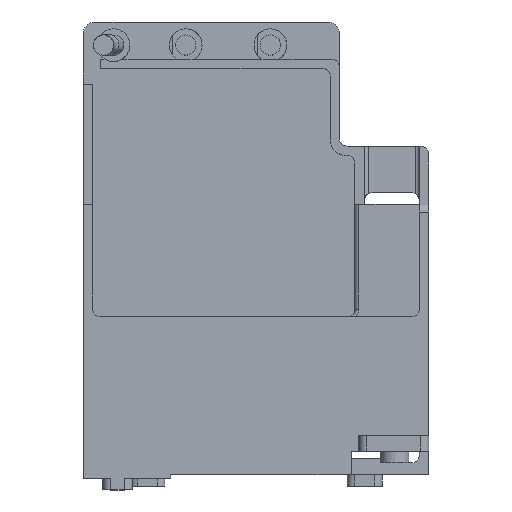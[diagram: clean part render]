
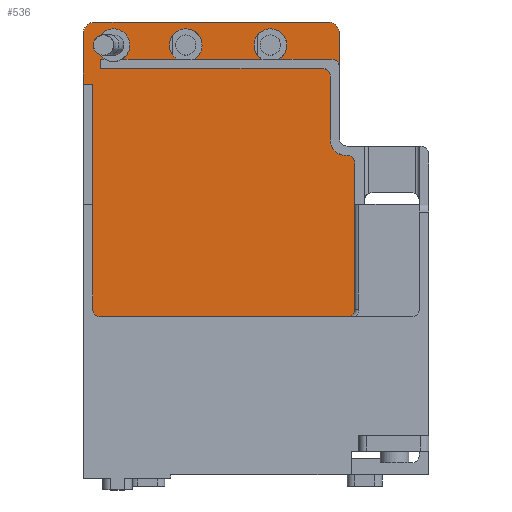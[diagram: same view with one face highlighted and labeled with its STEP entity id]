
A CAD part, top view. The second image highlights one B-rep face of the part: STEP entity #536.
In plain terms, the highlighted planar face has unit normal (0, 0, 1).
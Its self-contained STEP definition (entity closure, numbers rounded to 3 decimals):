
#280=FACE_OUTER_BOUND('',#937,.T.);
#536=ADVANCED_FACE('',(#280),#723,.T.);
#723=PLANE('',#4327);
#937=EDGE_LOOP('',(#2391,#2392,#2393,#2394,#2395,#2396,#2397,#2398,#2399,
#2400,#2401,#2402,#2403,#2404,#2405,#2406,#2407,#2408,#2409,#2410,#2411,
#2412,#2413,#2414,#2415,#2416));
#1229=LINE('',#6387,#1662);
#1233=LINE('',#6398,#1666);
#1239=LINE('',#6414,#1672);
#1243=LINE('',#6426,#1676);
#1247=LINE('',#6438,#1680);
#1283=LINE('',#6519,#1716);
#1334=LINE('',#6635,#1767);
#1337=LINE('',#6641,#1770);
#1338=LINE('',#6644,#1771);
#1339=LINE('',#6645,#1772);
#1340=LINE('',#6648,#1773);
#1341=LINE('',#6651,#1774);
#1342=LINE('',#6653,#1775);
#1343=LINE('',#6657,#1776);
#1344=LINE('',#6660,#1777);
#1662=VECTOR('',#4848,1.);
#1666=VECTOR('',#4858,1.);
#1672=VECTOR('',#4872,1.);
#1676=VECTOR('',#4884,1.);
#1680=VECTOR('',#4896,1.);
#1716=VECTOR('',#4954,1.);
#1767=VECTOR('',#5047,1.);
#1770=VECTOR('',#5052,1.);
#1771=VECTOR('',#5057,1.);
#1772=VECTOR('',#5058,1.);
#1773=VECTOR('',#5061,1.);
#1774=VECTOR('',#5064,1.);
#1775=VECTOR('',#5065,1.);
#1776=VECTOR('',#5068,1.);
#1777=VECTOR('',#5071,1.);
#2391=ORIENTED_EDGE('',*,*,#3843,.F.);
#2392=ORIENTED_EDGE('',*,*,#3842,.T.);
#2393=ORIENTED_EDGE('',*,*,#3826,.F.);
#2394=ORIENTED_EDGE('',*,*,#3844,.T.);
#2395=ORIENTED_EDGE('',*,*,#3813,.F.);
#2396=ORIENTED_EDGE('',*,*,#3845,.T.);
#2397=ORIENTED_EDGE('',*,*,#3739,.T.);
#2398=ORIENTED_EDGE('',*,*,#3712,.T.);
#2399=ORIENTED_EDGE('',*,*,#3846,.T.);
#2400=ORIENTED_EDGE('',*,*,#3847,.T.);
#2401=ORIENTED_EDGE('',*,*,#3848,.T.);
#2402=ORIENTED_EDGE('',*,*,#3778,.T.);
#2403=ORIENTED_EDGE('',*,*,#3849,.T.);
#2404=ORIENTED_EDGE('',*,*,#3850,.T.);
#2405=ORIENTED_EDGE('',*,*,#3851,.T.);
#2406=ORIENTED_EDGE('',*,*,#3852,.T.);
#2407=ORIENTED_EDGE('',*,*,#3853,.T.);
#2408=ORIENTED_EDGE('',*,*,#3717,.T.);
#2409=ORIENTED_EDGE('',*,*,#3722,.T.);
#2410=ORIENTED_EDGE('',*,*,#3725,.T.);
#2411=ORIENTED_EDGE('',*,*,#3728,.T.);
#2412=ORIENTED_EDGE('',*,*,#3731,.T.);
#2413=ORIENTED_EDGE('',*,*,#3734,.T.);
#2414=ORIENTED_EDGE('',*,*,#3737,.T.);
#2415=ORIENTED_EDGE('',*,*,#3854,.T.);
#2416=ORIENTED_EDGE('',*,*,#3839,.T.);
#3299=VERTEX_POINT('',#6380);
#3302=VERTEX_POINT('',#6386);
#3306=VERTEX_POINT('',#6397);
#3307=VERTEX_POINT('',#6399);
#3310=VERTEX_POINT('',#6407);
#3312=VERTEX_POINT('',#6413);
#3314=VERTEX_POINT('',#6419);
#3316=VERTEX_POINT('',#6425);
#3318=VERTEX_POINT('',#6431);
#3320=VERTEX_POINT('',#6437);
#3322=VERTEX_POINT('',#6443);
#3354=VERTEX_POINT('',#6518);
#3355=VERTEX_POINT('',#6520);
#3378=VERTEX_POINT('',#6583);
#3379=VERTEX_POINT('',#6585);
#3389=VERTEX_POINT('',#6609);
#3390=VERTEX_POINT('',#6611);
#3395=VERTEX_POINT('',#6629);
#3398=VERTEX_POINT('',#6634);
#3400=VERTEX_POINT('',#6639);
#3401=VERTEX_POINT('',#6647);
#3402=VERTEX_POINT('',#6649);
#3403=VERTEX_POINT('',#6652);
#3404=VERTEX_POINT('',#6654);
#3405=VERTEX_POINT('',#6656);
#3406=VERTEX_POINT('',#6658);
#3712=EDGE_CURVE('',#3299,#3302,#1229,.T.);
#3717=EDGE_CURVE('',#3307,#3306,#1233,.T.);
#3722=EDGE_CURVE('',#3306,#3310,#4122,.T.);
#3725=EDGE_CURVE('',#3310,#3312,#1239,.T.);
#3728=EDGE_CURVE('',#3312,#3314,#4124,.T.);
#3731=EDGE_CURVE('',#3314,#3316,#1243,.T.);
#3734=EDGE_CURVE('',#3316,#3318,#4126,.T.);
#3737=EDGE_CURVE('',#3318,#3320,#1247,.T.);
#3739=EDGE_CURVE('',#3322,#3299,#4128,.T.);
#3778=EDGE_CURVE('',#3355,#3354,#1283,.T.);
#3813=EDGE_CURVE('',#3378,#3379,#4135,.T.);
#3826=EDGE_CURVE('',#3389,#3390,#4140,.T.);
#3839=EDGE_CURVE('',#3395,#3398,#1334,.T.);
#3842=EDGE_CURVE('',#3400,#3390,#1337,.T.);
#3843=EDGE_CURVE('',#3400,#3398,#4142,.T.);
#3844=EDGE_CURVE('',#3389,#3379,#1338,.T.);
#3845=EDGE_CURVE('',#3378,#3322,#1339,.T.);
#3846=EDGE_CURVE('',#3302,#3401,#4143,.T.);
#3847=EDGE_CURVE('',#3401,#3402,#1340,.T.);
#3848=EDGE_CURVE('',#3402,#3355,#4144,.T.);
#3849=EDGE_CURVE('',#3354,#3403,#1341,.T.);
#3850=EDGE_CURVE('',#3403,#3404,#1342,.T.);
#3851=EDGE_CURVE('',#3404,#3405,#4145,.T.);
#3852=EDGE_CURVE('',#3405,#3406,#1343,.T.);
#3853=EDGE_CURVE('',#3406,#3307,#4146,.T.);
#3854=EDGE_CURVE('',#3320,#3395,#1344,.T.);
#4122=CIRCLE('',#4278,1.);
#4124=CIRCLE('',#4282,2.);
#4126=CIRCLE('',#4286,1.);
#4128=CIRCLE('',#4290,1.);
#4135=CIRCLE('',#4308,2.1);
#4140=CIRCLE('',#4315,2.1);
#4142=CIRCLE('',#4322,2.1);
#4143=CIRCLE('',#4323,1.5);
#4144=CIRCLE('',#4324,1.5);
#4145=CIRCLE('',#4325,1.);
#4146=CIRCLE('',#4326,1.);
#4278=AXIS2_PLACEMENT_3D('',#6408,#4866,#4867);
#4282=AXIS2_PLACEMENT_3D('',#6420,#4878,#4879);
#4286=AXIS2_PLACEMENT_3D('',#6432,#4890,#4891);
#4290=AXIS2_PLACEMENT_3D('',#6442,#4901,#4902);
#4308=AXIS2_PLACEMENT_3D('',#6584,#5004,#5005);
#4315=AXIS2_PLACEMENT_3D('',#6610,#5026,#5027);
#4322=AXIS2_PLACEMENT_3D('',#6643,#5055,#5056);
#4323=AXIS2_PLACEMENT_3D('',#6646,#5059,#5060);
#4324=AXIS2_PLACEMENT_3D('',#6650,#5062,#5063);
#4325=AXIS2_PLACEMENT_3D('',#6655,#5066,#5067);
#4326=AXIS2_PLACEMENT_3D('',#6659,#5069,#5070);
#4327=AXIS2_PLACEMENT_3D('',#6661,#5072,#5073);
#4848=DIRECTION('',(0.,1.,0.));
#4858=DIRECTION('',(0.,1.,0.));
#4866=DIRECTION('',(0.,0.,1.));
#4867=DIRECTION('',(1.,0.,0.));
#4872=DIRECTION('',(-1.,0.,0.));
#4878=DIRECTION('',(0.,0.,-1.));
#4879=DIRECTION('',(1.,0.,0.));
#4884=DIRECTION('',(0.,1.,0.));
#4890=DIRECTION('',(0.,0.,1.));
#4891=DIRECTION('',(1.,0.,0.));
#4896=DIRECTION('',(-1.,0.,0.));
#4901=DIRECTION('',(0.,0.,-1.));
#4902=DIRECTION('',(1.,0.,0.));
#4954=DIRECTION('',(0.,-1.,0.));
#5004=DIRECTION('',(0.,0.,1.));
#5005=DIRECTION('',(1.,0.,0.));
#5026=DIRECTION('',(0.,0.,1.));
#5027=DIRECTION('',(1.,0.,0.));
#5047=DIRECTION('',(1.,0.,0.));
#5052=DIRECTION('',(1.,0.,0.));
#5055=DIRECTION('',(0.,0.,1.));
#5056=DIRECTION('',(1.,0.,0.));
#5057=DIRECTION('',(1.,0.,0.));
#5058=DIRECTION('',(1.,0.,0.));
#5059=DIRECTION('',(0.,0.,1.));
#5060=DIRECTION('',(1.,0.,0.));
#5061=DIRECTION('',(-1.,0.,0.));
#5062=DIRECTION('',(0.,0.,1.));
#5063=DIRECTION('',(1.,0.,0.));
#5064=DIRECTION('',(1.,0.,0.));
#5065=DIRECTION('',(0.,-1.,0.));
#5066=DIRECTION('',(0.,0.,1.));
#5067=DIRECTION('',(1.,0.,0.));
#5068=DIRECTION('',(1.,0.,0.));
#5069=DIRECTION('',(0.,0.,1.));
#5070=DIRECTION('',(1.,0.,0.));
#5071=DIRECTION('',(0.,1.,0.));
#5072=DIRECTION('',(0.,0.,1.));
#5073=DIRECTION('',(1.,0.,0.));
#6380=CARTESIAN_POINT('',(149.112,96.091,-7.3));
#6386=CARTESIAN_POINT('',(149.112,100.391,-7.3));
#6387=CARTESIAN_POINT('',(149.112,96.091,-7.3));
#6397=CARTESIAN_POINT('',(151.112,83.691,-7.3));
#6398=CARTESIAN_POINT('',(151.112,64.891,-7.3));
#6399=CARTESIAN_POINT('',(151.112,64.891,-7.3));
#6407=CARTESIAN_POINT('',(150.112,84.691,-7.3));
#6408=CARTESIAN_POINT('',(150.112,83.691,-7.3));
#6413=CARTESIAN_POINT('',(149.912,84.691,-7.3));
#6414=CARTESIAN_POINT('',(150.112,84.691,-7.3));
#6419=CARTESIAN_POINT('',(147.912,86.691,-7.3));
#6420=CARTESIAN_POINT('',(149.912,86.691,-7.3));
#6425=CARTESIAN_POINT('',(147.912,94.891,-7.3));
#6426=CARTESIAN_POINT('',(147.912,86.691,-7.3));
#6431=CARTESIAN_POINT('',(146.912,95.891,-7.3));
#6432=CARTESIAN_POINT('',(146.912,94.891,-7.3));
#6437=CARTESIAN_POINT('',(118.312,95.891,-7.3));
#6438=CARTESIAN_POINT('',(146.912,95.891,-7.3));
#6442=CARTESIAN_POINT('',(148.112,96.091,-7.3));
#6443=CARTESIAN_POINT('',(148.112,97.091,-7.3));
#6518=CARTESIAN_POINT('',(116.112,93.891,-7.3));
#6519=CARTESIAN_POINT('',(116.112,100.391,-7.3));
#6520=CARTESIAN_POINT('',(116.112,100.391,-7.3));
#6583=CARTESIAN_POINT('',(141.294,97.091,-7.3));
#6584=CARTESIAN_POINT('',(140.212,98.891,-7.3));
#6585=CARTESIAN_POINT('',(139.13,97.091,-7.3));
#6609=CARTESIAN_POINT('',(130.394,97.091,-7.3));
#6610=CARTESIAN_POINT('',(129.312,98.891,-7.3));
#6611=CARTESIAN_POINT('',(128.23,97.091,-7.3));
#6629=CARTESIAN_POINT('',(118.312,97.091,-7.3));
#6634=CARTESIAN_POINT('',(118.93,97.091,-7.3));
#6635=CARTESIAN_POINT('',(118.312,97.091,-7.3));
#6639=CARTESIAN_POINT('',(121.094,97.091,-7.3));
#6641=CARTESIAN_POINT('',(118.312,97.091,-7.3));
#6643=CARTESIAN_POINT('',(120.012,98.891,-7.3));
#6644=CARTESIAN_POINT('',(118.312,97.091,-7.3));
#6645=CARTESIAN_POINT('',(118.312,97.091,-7.3));
#6646=CARTESIAN_POINT('',(147.612,100.391,-7.3));
#6647=CARTESIAN_POINT('',(147.612,101.891,-7.3));
#6648=CARTESIAN_POINT('',(147.612,101.891,-7.3));
#6649=CARTESIAN_POINT('',(117.612,101.891,-7.3));
#6650=CARTESIAN_POINT('',(117.612,100.391,-7.3));
#6651=CARTESIAN_POINT('',(116.112,93.891,-7.3));
#6652=CARTESIAN_POINT('',(117.312,93.891,-7.3));
#6653=CARTESIAN_POINT('',(117.312,94.891,-7.3));
#6654=CARTESIAN_POINT('',(117.312,64.891,-7.3));
#6655=CARTESIAN_POINT('',(118.312,64.891,-7.3));
#6656=CARTESIAN_POINT('',(118.312,63.891,-7.3));
#6657=CARTESIAN_POINT('',(118.312,63.891,-7.3));
#6658=CARTESIAN_POINT('',(150.112,63.891,-7.3));
#6659=CARTESIAN_POINT('',(150.112,64.891,-7.3));
#6660=CARTESIAN_POINT('',(118.312,95.891,-7.3));
#6661=CARTESIAN_POINT('',(118.312,64.891,-7.3));
